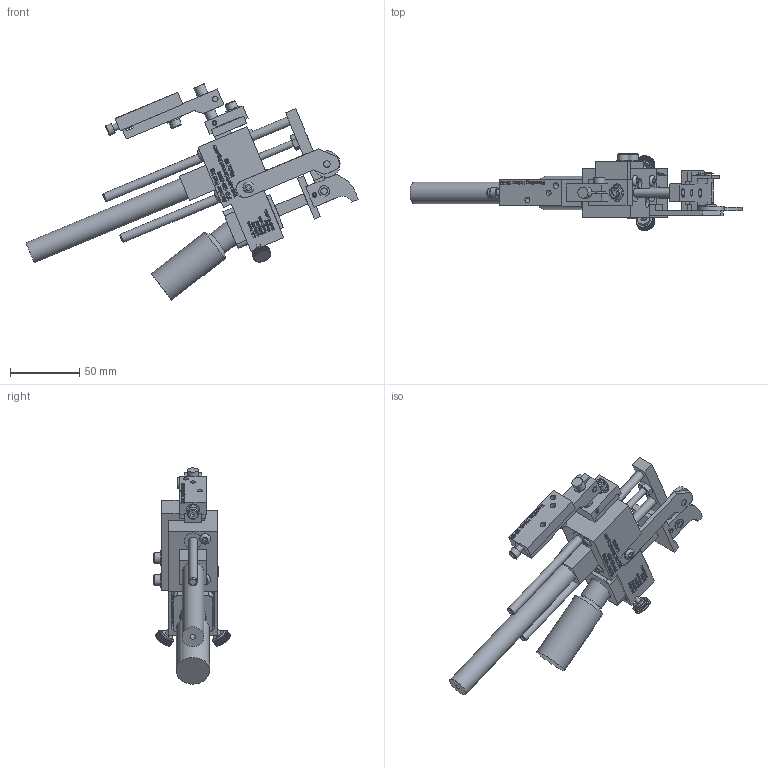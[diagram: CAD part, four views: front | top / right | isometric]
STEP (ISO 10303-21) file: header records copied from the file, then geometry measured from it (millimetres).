
FILE_DESCRIPTION((''),'2;1');
FILE_NAME('C:\Documents and Settings\Ron\My Documents\Inventor\Sprinter Drawing\Machines in Inventor\Model 88\Type\Ext Hd 1in\Brkt\Ret\Model 88 EH1 ret w Brkt mod 2012.stp','2012-02-29T09:10:26',('Ron'),(''),'Autodesk Inventor 2011','Autodesk Inventor 2011','');
FILE_SCHEMA(('AUTOMOTIVE_DESIGN { 1 0 10303 214 1 1 1 1 }'));
Length unit declared in the file: inch
Products named in the file (44): Model 88 EH1 ret w Brkt mod 2012; 88 Rod Carrier Retracted EH1 STD; 88 Rod Carrier; Type A - Hexagon Socket Set Screw - Cup Point - Inch 8-32 UNC x 0.32; 66 PIVOT SHAFT; 66 PIVOT SHAFT LOCKING RING; 23 66 invert block; AS 1112 (4)  - Metric M6; 66 Spring; 19 Rod Carrier Set Screws; 88 EH1 Marking head assy; 88-EH-1 CLIP plate; 88 baselock (model sized); 88 baselock STAMP-2; Model 66, EH1 std .25 x 6; Hexagon Socket Set Screw - Flat Point - Inch 8-32 UNC x 0.32; 88 Frame Body Assy Ext w Brkt; 88 Frame Body; 66 Linear Bearing; Hexagon Socket Button Head Cap Screw - Inch 8 - 32 x 1/4; Hexagon Socket Head Cap Screw - Inch No. 8 - 32 UNC - 1 1/2; 10 Ink Resevior Lock Screw; INK RESERVOIR ASSY; 88 RESERVOIR; 88 Ink Pad; 66 INK BOTTLE; 88 EH1 Wheel Bracket ASSY ( TRIAL ONLY); 88 EH1  Wheel Bracket Arm(TRIAL ONLY); 44 Wheel Retainer; 44 Cam Wheel; Hexagon Socket Set Screw - Flat Point - Inch 4-48 UNF x 0.19; 8-32x0.25 Hexagon Socket Button Head Cap Screw ANSI/ASME B18.3; Model 88 RPB; rpb4; rpb3; rpb-1; rpb2; No. 10-24x0.88 Hexagon socket head cap screw ANSI/ASME B18.3; Type B - Plain Washer (Inch) No. 10 - narrow - Type B; 66 Machine Mounting Pivot Bracket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
Assembly tree (59 placements, depth 4):
  Model 88 EH1 ret w Brkt mod 2012
    88 Rod Carrier Retracted EH1 STD
      88 Rod Carrier
      Type A - Hexagon Socket Set Screw - Cup Point - Inch 8-32 UNC x 0.32
      66 PIVOT SHAFT
      66 PIVOT SHAFT LOCKING RING  x2
      23 66 invert block
      AS 1112 (4)  - Metric M6
      66 Spring
      19 Rod Carrier Set Screws  x2
      88 EH1 Marking head assy
        88-EH-1 CLIP plate
        88 baselock (model sized)
        88 baselock STAMP-2
      Model 66, EH1 std .25 x 6  x2
      Hexagon Socket Set Screw - Flat Point - Inch 8-32 UNC x 0.32
    88 Frame Body Assy Ext w Brkt
      88 Frame Body
      66 Linear Bearing  x2
      Hexagon Socket Button Head Cap Screw - Inch 8 - 32 x 1/4  x4
      Hexagon Socket Head Cap Screw - Inch No. 8 - 32 UNC - 1 1/2  x2
      10 Ink Resevior Lock Screw  x2
      INK RESERVOIR ASSY
        88 RESERVOIR
        88 Ink Pad
        66 INK BOTTLE
      88 EH1 Wheel Bracket ASSY ( TRIAL ONLY)
        88 EH1  Wheel Bracket Arm(TRIAL ONLY)
        44 Wheel Retainer
        44 Cam Wheel
        Hexagon Socket Set Screw - Flat Point - Inch 4-48 UNF x 0.19
      8-32x0.25 Hexagon Socket Button Head Cap Screw ANSI/ASME B18.3
      Model 88 RPB
        rpb4
        rpb3
        rpb-1
        rpb2
        No. 10-24x0.88 Hexagon socket head cap screw ANSI/ASME B18.3  x5
        Type B - Plain Washer (Inch) No. 10 - narrow - Type B  x4
        66 Machine Mounting Pivot Bracket
        Pin - Hardened Ground Machine Dowel (Inch) 1/8 x 3/4
        Pin - Hardened Ground Machine Dowel (Inch) 1/8 x 3/8
    EH1 ret std
    10-32 PORTS DECAL
Bounding box: 239.62 x 55.4 x 156 mm (x, y, z)
Volume: 211307 mm3; surface area: 102957.9 mm2
Topology: 426 solids, 426 shells, 6419 faces, 15731 edges, 9741 vertices
Faces by surface type: plane 4467, bspline 1294, cylinder 567, cone 68, torus 23
Full cylindrical faces by diameter (mm): 1.143 x1, 2.261 x1, 2.54 x2, 2.642 x1, 2.845 x1, 3.175 x4, 3.2 x1, 3.302 x14, 3.683 x2, 3.962 x10, 4.064 x2, 4.166 x11, 4.547 x2, 4.699 x3, 4.75 x4, 4.775 x2, 4.826 x8, 4.864 x2, 4.917 x1, 5.055 x1, 5.156 x7, 5.359 x1, 5.556 x1, 6.325 x4, 6.35 x7, 6.426 x1, 6.604 x1, 6.858 x2, 7.366 x2, 7.62 x2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
Entity records: 152914 total; most frequent: CARTESIAN_POINT 45424, ORIENTED_EDGE 23922, DIRECTION 17322, EDGE_CURVE 11961, VECTOR 8552, LINE 8552, VERTEX_POINT 7681, EDGE_LOOP 5356
